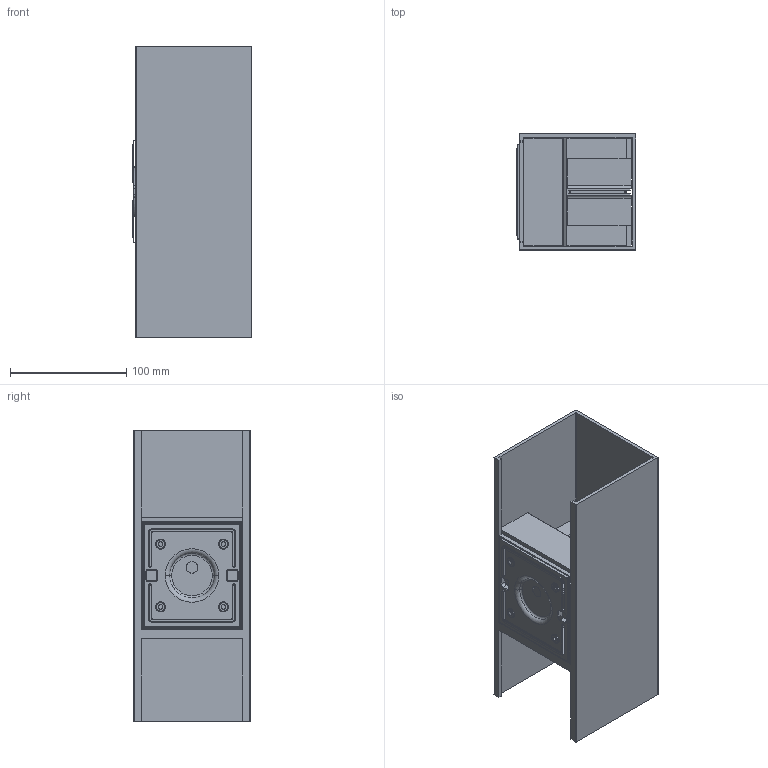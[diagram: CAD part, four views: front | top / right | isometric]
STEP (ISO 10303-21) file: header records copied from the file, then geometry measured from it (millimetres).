
FILE_DESCRIPTION((''),'2;1');
FILE_NAME('DODO100__SW0001','2025-07-22T16:55:54',('Piccioli'),(''),'CREO PARAMETRIC BY PTC INC, 2025010','CREO PARAMETRIC BY PTC INC, 2025010','');
FILE_SCHEMA(('CONFIG_CONTROL_DESIGN'));
Length unit declared in the file: millimetre
Products named in the file (1): DODO100__SW0001
Bounding box: 103.1 x 100 x 250 mm (x, y, z)
Surface area: 190988.2 mm2 (no closed solid volume)
Topology: 0 solids, 23 shells, 97 faces, 459 edges, 380 vertices
Faces by surface type: plane 63, torus 16, cylinder 13, cone 5
Entity records: 5078 total; most frequent: CARTESIAN_POINT 1455, DIRECTION 750, ORIENTED_EDGE 582, EDGE_CURVE 459, VERTEX_POINT 380, VECTOR 266, LINE 266, AXIS2_PLACEMENT_3D 242
